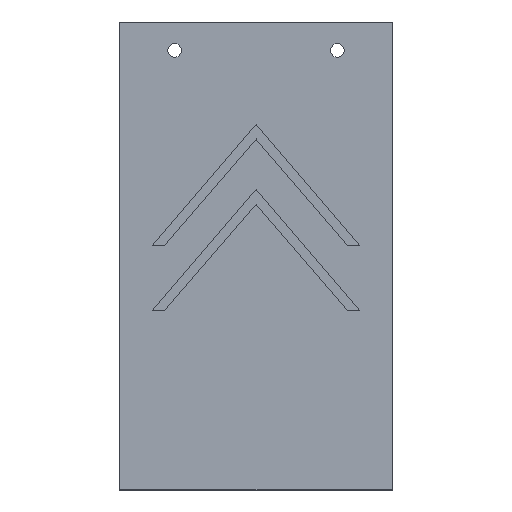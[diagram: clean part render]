
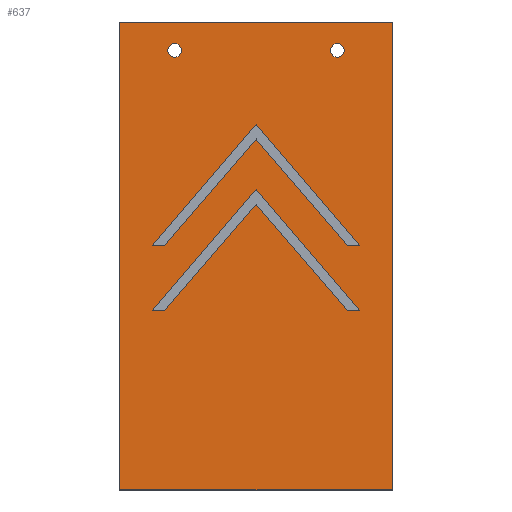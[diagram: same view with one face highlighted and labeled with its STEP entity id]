
A CAD part, top view. The second image highlights one B-rep face of the part: STEP entity #637.
In plain terms, the highlighted planar face has unit normal (0, 0, 1).
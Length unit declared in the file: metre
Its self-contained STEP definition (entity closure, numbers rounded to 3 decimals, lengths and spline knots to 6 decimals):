
#20=CIRCLE('',#693,0.0017);
#21=CIRCLE('',#694,0.0017);
#44=ORIENTED_EDGE('',*,*,#212,.F.);
#45=ORIENTED_EDGE('',*,*,#213,.F.);
#46=ORIENTED_EDGE('',*,*,#214,.F.);
#47=ORIENTED_EDGE('',*,*,#215,.T.);
#48=ORIENTED_EDGE('',*,*,#216,.T.);
#49=ORIENTED_EDGE('',*,*,#217,.F.);
#50=ORIENTED_EDGE('',*,*,#218,.F.);
#51=ORIENTED_EDGE('',*,*,#219,.T.);
#52=ORIENTED_EDGE('',*,*,#220,.T.);
#53=ORIENTED_EDGE('',*,*,#221,.F.);
#54=ORIENTED_EDGE('',*,*,#222,.F.);
#55=ORIENTED_EDGE('',*,*,#223,.F.);
#56=ORIENTED_EDGE('',*,*,#224,.F.);
#57=ORIENTED_EDGE('',*,*,#225,.T.);
#58=ORIENTED_EDGE('',*,*,#226,.T.);
#59=ORIENTED_EDGE('',*,*,#227,.F.);
#60=ORIENTED_EDGE('',*,*,#228,.F.);
#61=ORIENTED_EDGE('',*,*,#229,.F.);
#212=EDGE_CURVE('',#296,#296,#20,.T.);
#213=EDGE_CURVE('',#297,#297,#21,.T.);
#214=EDGE_CURVE('',#298,#299,#354,.T.);
#215=EDGE_CURVE('',#298,#300,#355,.T.);
#216=EDGE_CURVE('',#300,#301,#356,.T.);
#217=EDGE_CURVE('',#299,#301,#357,.T.);
#218=EDGE_CURVE('',#302,#303,#358,.T.);
#219=EDGE_CURVE('',#302,#304,#359,.T.);
#220=EDGE_CURVE('',#304,#305,#360,.T.);
#221=EDGE_CURVE('',#306,#305,#361,.T.);
#222=EDGE_CURVE('',#307,#306,#362,.T.);
#223=EDGE_CURVE('',#303,#307,#363,.T.);
#224=EDGE_CURVE('',#308,#309,#364,.T.);
#225=EDGE_CURVE('',#308,#310,#365,.T.);
#226=EDGE_CURVE('',#310,#311,#366,.T.);
#227=EDGE_CURVE('',#312,#311,#367,.T.);
#228=EDGE_CURVE('',#313,#312,#368,.T.);
#229=EDGE_CURVE('',#309,#313,#369,.T.);
#296=VERTEX_POINT('',#951);
#297=VERTEX_POINT('',#953);
#298=VERTEX_POINT('',#955);
#299=VERTEX_POINT('',#956);
#300=VERTEX_POINT('',#958);
#301=VERTEX_POINT('',#960);
#302=VERTEX_POINT('',#963);
#303=VERTEX_POINT('',#964);
#304=VERTEX_POINT('',#966);
#305=VERTEX_POINT('',#968);
#306=VERTEX_POINT('',#970);
#307=VERTEX_POINT('',#972);
#308=VERTEX_POINT('',#975);
#309=VERTEX_POINT('',#976);
#310=VERTEX_POINT('',#978);
#311=VERTEX_POINT('',#980);
#312=VERTEX_POINT('',#982);
#313=VERTEX_POINT('',#984);
#354=LINE('',#954,#426);
#355=LINE('',#957,#427);
#356=LINE('',#959,#428);
#357=LINE('',#961,#429);
#358=LINE('',#962,#430);
#359=LINE('',#965,#431);
#360=LINE('',#967,#432);
#361=LINE('',#969,#433);
#362=LINE('',#971,#434);
#363=LINE('',#973,#435);
#364=LINE('',#974,#436);
#365=LINE('',#977,#437);
#366=LINE('',#979,#438);
#367=LINE('',#981,#439);
#368=LINE('',#983,#440);
#369=LINE('',#985,#441);
#426=VECTOR('',#767,1.);
#427=VECTOR('',#768,1.);
#428=VECTOR('',#769,1.);
#429=VECTOR('',#770,1.);
#430=VECTOR('',#771,1.);
#431=VECTOR('',#772,1.);
#432=VECTOR('',#773,1.);
#433=VECTOR('',#774,1.);
#434=VECTOR('',#775,1.);
#435=VECTOR('',#776,1.);
#436=VECTOR('',#777,1.);
#437=VECTOR('',#778,1.);
#438=VECTOR('',#779,1.);
#439=VECTOR('',#780,1.);
#440=VECTOR('',#781,1.);
#441=VECTOR('',#782,1.);
#491=EDGE_LOOP('',(#44));
#492=EDGE_LOOP('',(#45));
#493=EDGE_LOOP('',(#46,#47,#48,#49));
#494=EDGE_LOOP('',(#50,#51,#52,#53,#54,#55));
#495=EDGE_LOOP('',(#56,#57,#58,#59,#60,#61));
#549=FACE_BOUND('',#491,.T.);
#550=FACE_BOUND('',#492,.T.);
#551=FACE_BOUND('',#493,.T.);
#552=FACE_BOUND('',#494,.T.);
#553=FACE_BOUND('',#495,.T.);
#603=PLANE('',#692);
#637=ADVANCED_FACE('',(#549,#550,#551,#552,#553),#603,.T.);
#692=AXIS2_PLACEMENT_3D('',#949,#761,#762);
#693=AXIS2_PLACEMENT_3D('',#950,#763,#764);
#694=AXIS2_PLACEMENT_3D('',#952,#765,#766);
#761=DIRECTION('',(0.,0.,1.));
#762=DIRECTION('',(1.,0.,0.));
#763=DIRECTION('',(0.,0.,1.));
#764=DIRECTION('',(1.,0.,0.));
#765=DIRECTION('',(0.,0.,1.));
#766=DIRECTION('',(1.,0.,0.));
#767=DIRECTION('',(1.,0.,0.));
#768=DIRECTION('',(0.,-1.,0.));
#769=DIRECTION('',(1.,0.,0.));
#770=DIRECTION('',(0.,-1.,0.));
#771=DIRECTION('',(1.,0.,0.));
#772=DIRECTION('',(0.651,0.759,0.));
#773=DIRECTION('',(0.651,-0.759,0.));
#774=DIRECTION('',(1.,0.,0.));
#775=DIRECTION('',(0.651,-0.759,0.));
#776=DIRECTION('',(0.651,0.759,0.));
#777=DIRECTION('',(1.,0.,0.));
#778=DIRECTION('',(0.651,0.759,0.));
#779=DIRECTION('',(0.651,-0.759,0.));
#780=DIRECTION('',(1.,0.,0.));
#781=DIRECTION('',(0.651,-0.759,0.));
#782=DIRECTION('',(0.651,0.759,0.));
#949=CARTESIAN_POINT('',(0.410718,0.116815,0.002));
#950=CARTESIAN_POINT('',(0.430718,0.167315,0.002));
#951=CARTESIAN_POINT('',(0.432418,0.167315,0.002));
#952=CARTESIAN_POINT('',(0.390718,0.167315,0.002));
#953=CARTESIAN_POINT('',(0.392418,0.167315,0.002));
#954=CARTESIAN_POINT('',(0.410718,0.174315,0.002));
#955=CARTESIAN_POINT('',(0.377218,0.174315,0.002));
#956=CARTESIAN_POINT('',(0.444218,0.174315,0.002));
#957=CARTESIAN_POINT('',(0.377218,0.116815,0.002));
#958=CARTESIAN_POINT('',(0.377218,0.059315,0.002));
#959=CARTESIAN_POINT('',(0.410718,0.059315,0.002));
#960=CARTESIAN_POINT('',(0.444218,0.059315,0.002));
#961=CARTESIAN_POINT('',(0.444218,0.116815,0.002));
#962=CARTESIAN_POINT('',(0.386718,0.119315,0.002));
#963=CARTESIAN_POINT('',(0.385218,0.119315,0.002));
#964=CARTESIAN_POINT('',(0.388218,0.119315,0.002));
#965=CARTESIAN_POINT('',(0.397968,0.13419,0.002));
#966=CARTESIAN_POINT('',(0.410718,0.149065,0.002));
#967=CARTESIAN_POINT('',(0.423468,0.13419,0.002));
#968=CARTESIAN_POINT('',(0.436218,0.119315,0.002));
#969=CARTESIAN_POINT('',(0.434718,0.119315,0.002));
#970=CARTESIAN_POINT('',(0.433218,0.119315,0.002));
#971=CARTESIAN_POINT('',(0.421968,0.13244,0.002));
#972=CARTESIAN_POINT('',(0.410718,0.145565,0.002));
#973=CARTESIAN_POINT('',(0.399468,0.13244,0.002));
#974=CARTESIAN_POINT('',(0.386718,0.103315,0.002));
#975=CARTESIAN_POINT('',(0.385218,0.103315,0.002));
#976=CARTESIAN_POINT('',(0.388218,0.103315,0.002));
#977=CARTESIAN_POINT('',(0.397968,0.11819,0.002));
#978=CARTESIAN_POINT('',(0.410718,0.133065,0.002));
#979=CARTESIAN_POINT('',(0.423468,0.11819,0.002));
#980=CARTESIAN_POINT('',(0.436218,0.103315,0.002));
#981=CARTESIAN_POINT('',(0.434718,0.103315,0.002));
#982=CARTESIAN_POINT('',(0.433218,0.103315,0.002));
#983=CARTESIAN_POINT('',(0.421968,0.11644,0.002));
#984=CARTESIAN_POINT('',(0.410718,0.129565,0.002));
#985=CARTESIAN_POINT('',(0.399468,0.11644,0.002));
